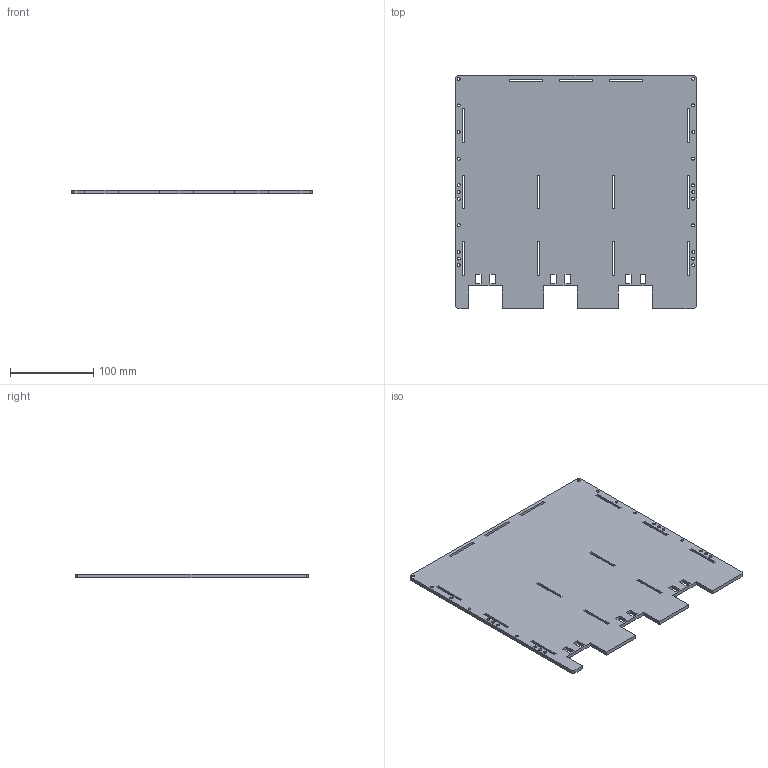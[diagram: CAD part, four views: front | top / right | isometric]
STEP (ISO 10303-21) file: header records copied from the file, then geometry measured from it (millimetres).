
FILE_DESCRIPTION(/* description */ ('STEP AP242 Edition 2','CAx-IF Rec.Pracs.---Representation and Presentation of Product Manufacturing Information (PMI)---4.0---2014-10-13','CAx-IF Rec.Pracs.---3D Tessellated Geometry---0.4---2014-09-14','2;1','CAx-IF Rec.Pracs.---User Defined Attributes---1.5---2016-08-15'),/* implementation_level */ '2;1');
FILE_NAME(/* name */ 'Enclosure - Top',/* time_stamp */ '2026-11-16T09:17:37Z',/* author */ (''),/* organization */ (''),/* preprocessor_version */ 'ST-DEVELOPER v20',/* originating_system */ 'ONSHAPE BY PTC INC, 1.223',/* authorisation */ ' ');
FILE_SCHEMA (('AP242_MANAGED_MODEL_BASED_3D_ENGINEERING_MIM_LF { 1 0 10303 442 3 1 4 }'));
Length unit declared in the file: metre
Products named in the file (1): Top
Bounding box: 290 x 280 x 4.5 mm (x, y, z)
Volume: 340219.4 mm3; surface area: 164164 mm2
Topology: 1 solids, 1 shells, 120 faces, 354 edges, 236 vertices
Faces by surface type: plane 98, cylinder 22
Full cylindrical faces by diameter (mm): 3.5 x22
Entity records: 4038 total; most frequent: CARTESIAN_POINT 689, ORIENTED_EDGE 664, DIRECTION 618, EDGE_CURVE 332, LINE 288, VECTOR 288, VERTEX_POINT 236, EDGE_LOOP 224
